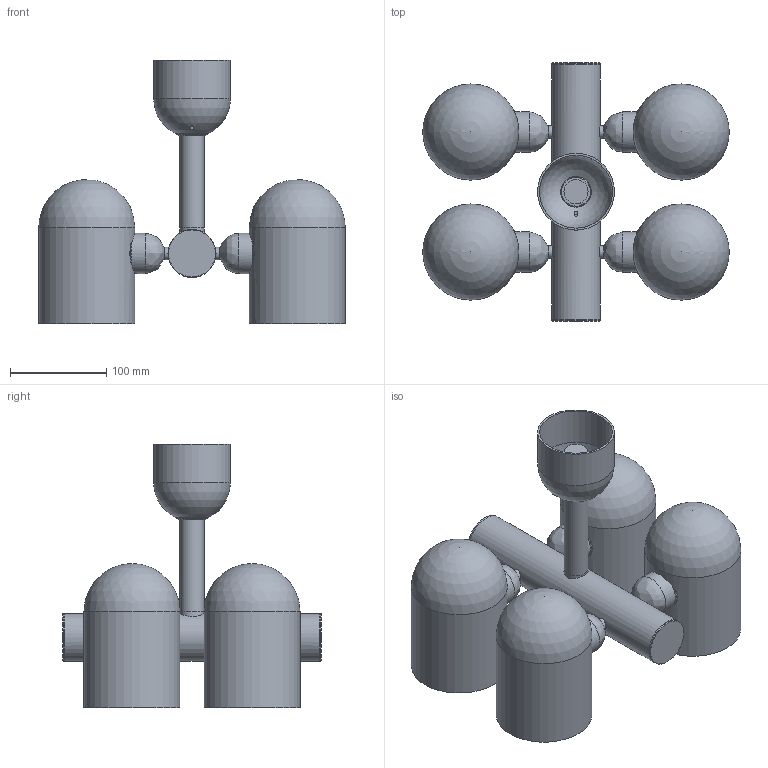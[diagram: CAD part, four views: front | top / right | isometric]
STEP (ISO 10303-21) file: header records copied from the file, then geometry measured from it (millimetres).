
FILE_DESCRIPTION(/* description */ (''),/* implementation_level */ '2;1');
FILE_NAME(/* name */ 'T:\B141 Odyssey Pendant 4\Pliki bryłowe handlowe\B141 Odyssey 4 3D files\Odyssey 4.stp',/* time_stamp */ '2022-01-24T08:54:49+01:00',/* author */ ('Mariusz Awariusz'),/* organization */ (''),/* preprocessor_version */ 'ST-DEVELOPER v18.1',/* originating_system */ 'Autodesk Inventor 2022',/* authorisation */ '');
FILE_SCHEMA (('AUTOMOTIVE_DESIGN { 1 0 10303 214 3 1 1 }'));
Length unit declared in the file: millimetre
Products named in the file (1): Odyssey Pendant 4 CE_v11_na potrzeby plików 3D_2_jako część
Bounding box: 319.1 x 269 x 274 mm (x, y, z)
Volume: 4980916.2 mm3; surface area: 329369.5 mm2
Topology: 2 solids, 2 shells, 70 faces, 168 edges, 111 vertices
Faces by surface type: cylinder 32, plane 15, bspline 13, sphere 7, cone 3
Full cylindrical faces by diameter (mm): 4 x1, 13 x4, 25 x3, 30 x1, 31.5 x1, 32 x1, 42 x4, 50 x3, 76 x1, 80 x1, 100 x4
Entity records: 2769 total; most frequent: CARTESIAN_POINT 1166, ORIENTED_EDGE 328, DIRECTION 315, EDGE_CURVE 164, AXIS2_PLACEMENT_3D 143, VERTEX_POINT 111, EDGE_LOOP 87, CIRCLE 85
